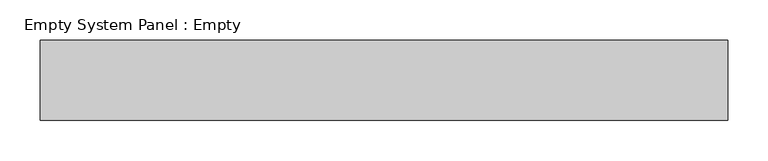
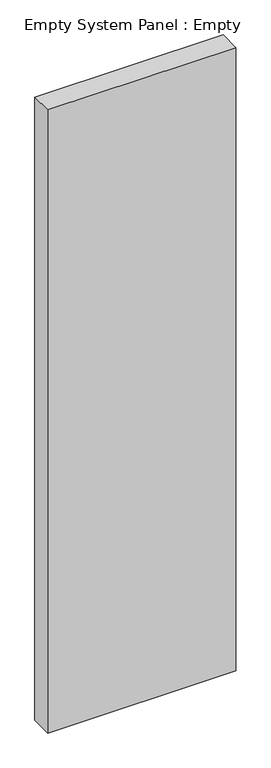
"""IFC4 building model written with IfcOpenShell, lengths in millimetres: plate geometry, Empty System Panel : Empty."""

from ifc_helpers import new_model, si_unit, origin, origin_with_axes, place, context, project, spatial, polyline, outline, extrude, source, transform, mapped, element, save


def empty_system_panel_empty_5c9cbeb2(model_context):
    return source(origin(), model_context, "Body", "SweptSolid", [
        extrude(outline(polyline([(428.5714286, -150.0), (-428.5714286, -150.0), (-428.5714286, -50.0), (428.5714286, -50.0), (428.5714286, -150.0)])), origin_with_axes(), (0.0, 0.0, 1.0), 3000.0),
    ])


if __name__ == "__main__":
    model = new_model("IFC4")
    model_context = context("Model", 3, world=origin())
    ifc_project = project(units=[si_unit("LENGTHUNIT", "METRE", prefix="MILLI")], contexts=[model_context])
    site = spatial("IfcSite", under=ifc_project)
    building = spatial("IfcBuilding", under=site)
    placement = place(None, origin())
    empty_system_panel_empty_shape = empty_system_panel_empty_5c9cbeb2(model_context)
    element("IfcPlate", 1, ObjectType="Empty System Panel : Empty", at=placement, inside=building, context=model_context, shape_type="MappedRepresentation", body=[
        mapped(empty_system_panel_empty_shape, transform((0.0, 0.0, 0.0), x_axis=(1.0, 0.0, 0.0), y_axis=(0.0, 1.0, 0.0), z_axis=(0.0, 0.0, 1.0))),
    ])
    save(model, "model.ifc")
